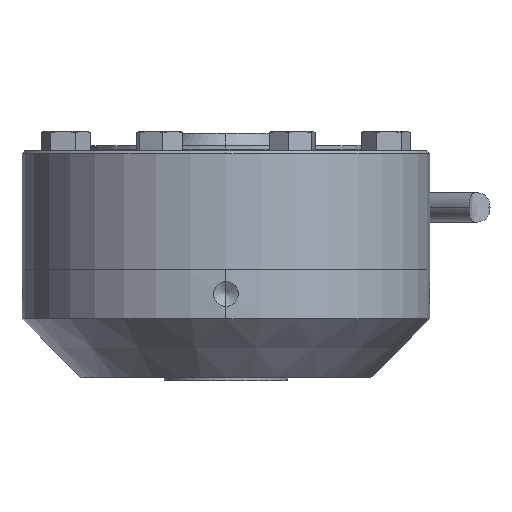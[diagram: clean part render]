
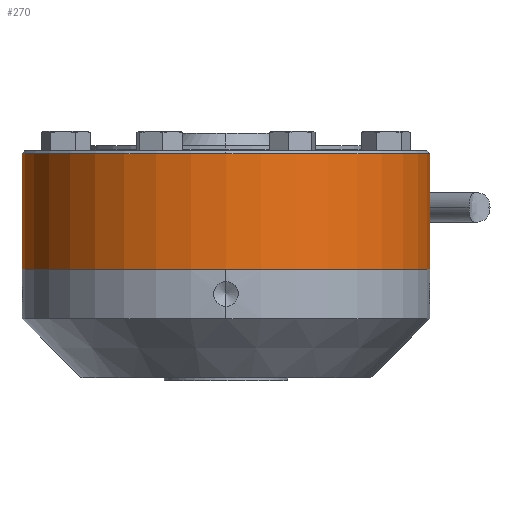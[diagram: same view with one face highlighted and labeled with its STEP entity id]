
A CAD part, left-side view. The second image highlights one B-rep face of the part: STEP entity #270.
In plain terms, the highlighted cylindrical face has radius 52.375 mm (diameter 104.75 mm), a partial arc.
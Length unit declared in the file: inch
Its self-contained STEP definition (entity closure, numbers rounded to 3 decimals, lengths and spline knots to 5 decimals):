
#47 = ORIENTED_EDGE ( 'NONE', *, *, #8725, .T. ) ;
#137 = ORIENTED_EDGE ( 'NONE', *, *, #728, .F. ) ;
#226 = EDGE_LOOP ( 'NONE', ( #137, #47, #9282, #9188, #1973 ) ) ;
#270 = ADVANCED_FACE ( 'NONE', ( #1846 ), #1847, .T. ) ;
#680 = VERTEX_POINT ( 'NONE', #3364 ) ;
#728 = EDGE_CURVE ( 'NONE', #881, #680, #3593, .T. ) ;
#881 = VERTEX_POINT ( 'NONE', #4255 ) ;
#1846 = FACE_OUTER_BOUND ( 'NONE', #226, .T. ) ;
#1847 = CYLINDRICAL_SURFACE ( 'NONE', #1848, 2.062 ) ;
#1848 = AXIS2_PLACEMENT_3D ( 'NONE', #1849, #1850, #1851 ) ;
#1849 = CARTESIAN_POINT ( 'NONE',  ( 0., 0., -0.08 ) ) ;
#1850 = DIRECTION ( 'NONE',  ( 0., 0., -1. ) ) ;
#1851 = DIRECTION ( 'NONE',  ( 0., 1., 0. ) ) ;
#1973 = ORIENTED_EDGE ( 'NONE', *, *, #7457, .T. ) ;
#2375 = CARTESIAN_POINT ( 'NONE',  ( 0., 2.062, -1.25 ) ) ;
#3364 = CARTESIAN_POINT ( 'NONE',  ( 0., -2.062, -1.25 ) ) ;
#3374 = CIRCLE ( 'NONE', #3375, 2.062 ) ;
#3375 = AXIS2_PLACEMENT_3D ( 'NONE', #3376, #3377, #3378 ) ;
#3376 = CARTESIAN_POINT ( 'NONE',  ( 0., 0., -1.25 ) ) ;
#3377 = DIRECTION ( 'NONE',  ( 0., 0., 1. ) ) ;
#3378 = DIRECTION ( 'NONE',  ( 0., 1., 0. ) ) ;
#3593 = LINE ( 'NONE', #3594, #3595 ) ;
#3594 = CARTESIAN_POINT ( 'NONE',  ( 0., -2.062, -0.08 ) ) ;
#3595 = VECTOR ( 'NONE', #3601, 39.37008 ) ;
#3601 = DIRECTION ( 'NONE',  ( 0., 0., -1. ) ) ;
#4255 = CARTESIAN_POINT ( 'NONE',  ( 0., -2.062, -0.08 ) ) ;
#4755 = CARTESIAN_POINT ( 'NONE',  ( -2.062, 0., -0.08 ) ) ;
#4899 = CIRCLE ( 'NONE', #4900, 2.062 ) ;
#4900 = AXIS2_PLACEMENT_3D ( 'NONE', #4903, #4904, #4905 ) ;
#4903 = CARTESIAN_POINT ( 'NONE',  ( 0., 0., -0.08 ) ) ;
#4904 = DIRECTION ( 'NONE',  ( 0., 0., -1. ) ) ;
#4905 = DIRECTION ( 'NONE',  ( 0., 1., 0. ) ) ;
#4960 = VERTEX_POINT ( 'NONE', #8102 ) ;
#4971 = CIRCLE ( 'NONE', #4972, 2.062 ) ;
#4972 = AXIS2_PLACEMENT_3D ( 'NONE', #4973, #4974, #4975 ) ;
#4973 = CARTESIAN_POINT ( 'NONE',  ( 0., 0., -0.08 ) ) ;
#4974 = DIRECTION ( 'NONE',  ( 0., 0., -1. ) ) ;
#4975 = DIRECTION ( 'NONE',  ( 0., 1., 0. ) ) ;
#5186 = EDGE_CURVE ( 'NONE', #4960, #6103, #8167, .T. ) ;
#6103 = VERTEX_POINT ( 'NONE', #2375 ) ;
#7457 = EDGE_CURVE ( 'NONE', #6103, #680, #3374, .T. ) ;
#8102 = CARTESIAN_POINT ( 'NONE',  ( 0., 2.062, -0.08 ) ) ;
#8167 = LINE ( 'NONE', #8168, #8169 ) ;
#8168 = CARTESIAN_POINT ( 'NONE',  ( 0., 2.062, -0.08 ) ) ;
#8169 = VECTOR ( 'NONE', #8170, 39.37008 ) ;
#8170 = DIRECTION ( 'NONE',  ( 0., 0., -1. ) ) ;
#8658 = VERTEX_POINT ( 'NONE', #4755 ) ;
#8698 = EDGE_CURVE ( 'NONE', #8658, #4960, #4899, .T. ) ;
#8725 = EDGE_CURVE ( 'NONE', #881, #8658, #4971, .T. ) ;
#9188 = ORIENTED_EDGE ( 'NONE', *, *, #5186, .T. ) ;
#9282 = ORIENTED_EDGE ( 'NONE', *, *, #8698, .T. ) ;
